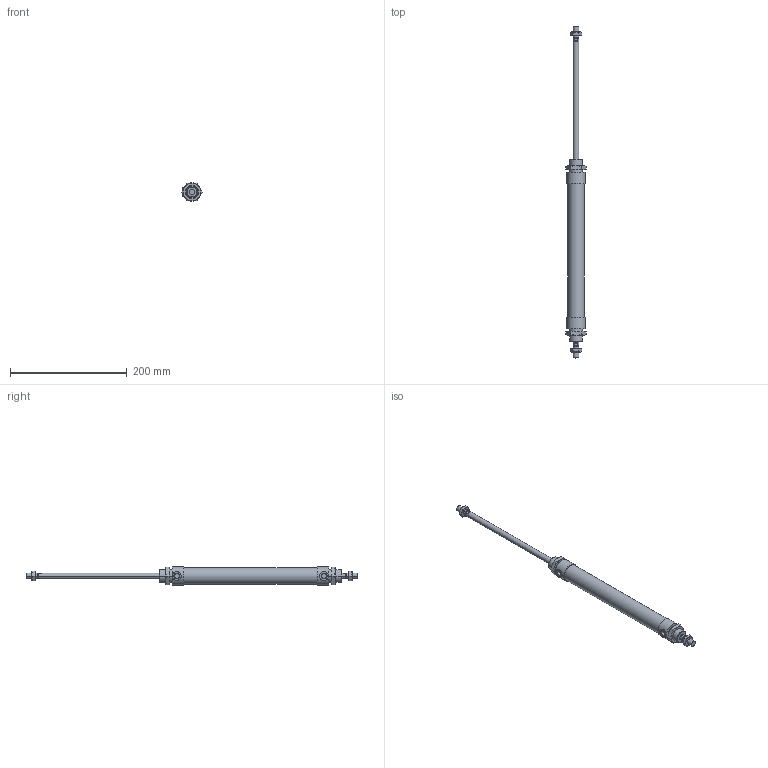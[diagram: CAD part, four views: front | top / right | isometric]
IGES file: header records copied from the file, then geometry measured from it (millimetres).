
Global section: file name: No Iges File Name specified; native system: AutoDesk Inventor R10; preprocessor: AutoDesk Inventor Iges Exporter R10; author: No Author specified; organization: No Organization specified; date: 20060105.143642; units: millimetre
Bounding box: 34.64 x 568 x 31.5 mm (x, y, z)
Volume: 225826.3 mm3; surface area: 63397.7 mm2
Topology: 6 solids, 6 shells, 185 faces, 397 edges, 232 vertices
Faces by surface type: cone 68, plane 62, cylinder 21, bspline 20, revolution 14
Full cylindrical faces by diameter (mm): 29 x1, 31.5 x2
